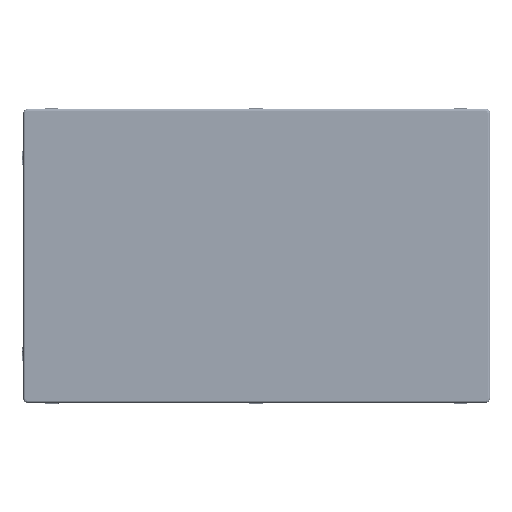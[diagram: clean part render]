
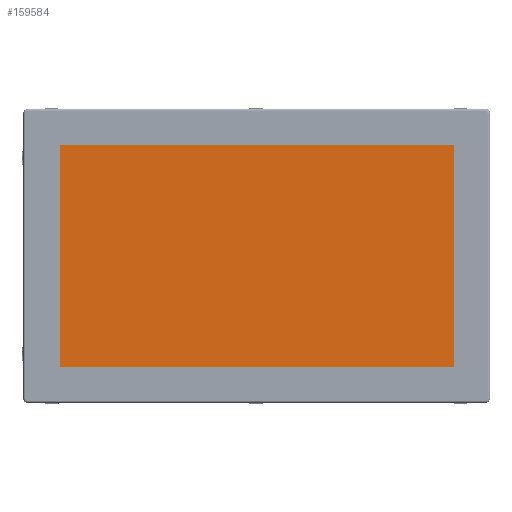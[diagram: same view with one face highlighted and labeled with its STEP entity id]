
A CAD part, top view. The second image highlights one B-rep face of the part: STEP entity #159584.
In plain terms, the highlighted planar face has unit normal (0, 0, 1).
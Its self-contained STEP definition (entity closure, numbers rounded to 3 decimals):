
#8291=FACE_BOUND('',#24857,.T.);
#9243=PLANE('',#172069);
#15462=FACE_OUTER_BOUND('',#24856,.T.);
#24856=EDGE_LOOP('',(#111537,#111538,#111539,#111540));
#24857=EDGE_LOOP('',(#111541,#111542,#111543,#111544,#111545,#111546,#111547,
#111548));
#35213=LINE('',#235428,#51334);
#35216=LINE('',#235434,#51337);
#35219=LINE('',#235440,#51340);
#35222=LINE('',#235444,#51343);
#35223=LINE('',#235448,#51344);
#35224=LINE('',#235450,#51345);
#35225=LINE('',#235452,#51346);
#35226=LINE('',#235454,#51347);
#51334=VECTOR('',#187953,10.);
#51337=VECTOR('',#187958,10.);
#51340=VECTOR('',#187963,10.);
#51343=VECTOR('',#187968,10.);
#51344=VECTOR('',#187971,10.);
#51345=VECTOR('',#187972,10.);
#51346=VECTOR('',#187973,10.);
#51347=VECTOR('',#187974,10.);
#73146=VERTEX_POINT('',#235425);
#73147=VERTEX_POINT('',#235427);
#73149=VERTEX_POINT('',#235433);
#73151=VERTEX_POINT('',#235439);
#73152=VERTEX_POINT('',#235446);
#73153=VERTEX_POINT('',#235447);
#73154=VERTEX_POINT('',#235449);
#73155=VERTEX_POINT('',#235451);
#73156=VERTEX_POINT('',#235453);
#88416=EDGE_CURVE('',#73147,#73146,#35213,.T.);
#88419=EDGE_CURVE('',#73149,#73147,#35216,.T.);
#88422=EDGE_CURVE('',#73151,#73149,#35219,.T.);
#88425=EDGE_CURVE('',#73146,#73151,#35222,.T.);
#88426=EDGE_CURVE('',#73152,#73153,#35223,.T.);
#88427=EDGE_CURVE('',#73153,#73154,#35224,.T.);
#88428=EDGE_CURVE('',#73153,#73155,#35225,.T.);
#88429=EDGE_CURVE('',#73156,#73153,#35226,.T.);
#111537=ORIENTED_EDGE('',*,*,#88425,.T.);
#111538=ORIENTED_EDGE('',*,*,#88422,.T.);
#111539=ORIENTED_EDGE('',*,*,#88419,.T.);
#111540=ORIENTED_EDGE('',*,*,#88416,.T.);
#111541=ORIENTED_EDGE('',*,*,#88426,.T.);
#111542=ORIENTED_EDGE('',*,*,#88427,.T.);
#111543=ORIENTED_EDGE('',*,*,#88427,.F.);
#111544=ORIENTED_EDGE('',*,*,#88428,.T.);
#111545=ORIENTED_EDGE('',*,*,#88428,.F.);
#111546=ORIENTED_EDGE('',*,*,#88429,.F.);
#111547=ORIENTED_EDGE('',*,*,#88429,.T.);
#111548=ORIENTED_EDGE('',*,*,#88426,.F.);
#159584=ADVANCED_FACE('',(#15462,#8291),#9243,.T.);
#172069=AXIS2_PLACEMENT_3D('',#235445,#187969,#187970);
#187953=DIRECTION('',(0.,-1.,0.));
#187958=DIRECTION('',(-1.,0.,0.));
#187963=DIRECTION('',(0.,1.,0.));
#187968=DIRECTION('',(1.,0.,0.));
#187969=DIRECTION('center_axis',(0.,0.,1.));
#187970=DIRECTION('ref_axis',(1.,0.,0.));
#187971=DIRECTION('',(0.,-1.,0.));
#187972=DIRECTION('',(1.,0.,0.));
#187973=DIRECTION('',(0.,-1.,0.));
#187974=DIRECTION('',(1.,0.,0.));
#235425=CARTESIAN_POINT('',(-172.15,-96.8,2.202));
#235427=CARTESIAN_POINT('',(-172.15,96.8,2.202));
#235428=CARTESIAN_POINT('',(-172.15,96.8,2.202));
#235433=CARTESIAN_POINT('',(172.15,96.8,2.202));
#235434=CARTESIAN_POINT('',(172.15,96.8,2.202));
#235439=CARTESIAN_POINT('',(172.15,-96.8,2.202));
#235440=CARTESIAN_POINT('',(172.15,-96.8,2.202));
#235444=CARTESIAN_POINT('',(-172.15,-96.8,2.202));
#235445=CARTESIAN_POINT('Origin',(0.,0.,2.202));
#235446=CARTESIAN_POINT('',(0.,11.639,2.202));
#235447=CARTESIAN_POINT('',(0.,0.,2.202));
#235448=CARTESIAN_POINT('',(0.,11.639,2.202));
#235449=CARTESIAN_POINT('',(15.049,0.,2.202));
#235450=CARTESIAN_POINT('',(-15.954,0.,2.202));
#235451=CARTESIAN_POINT('',(0.,-15.14,2.202));
#235452=CARTESIAN_POINT('',(0.,11.639,2.202));
#235453=CARTESIAN_POINT('',(-15.954,0.,2.202));
#235454=CARTESIAN_POINT('',(-15.954,0.,2.202));
